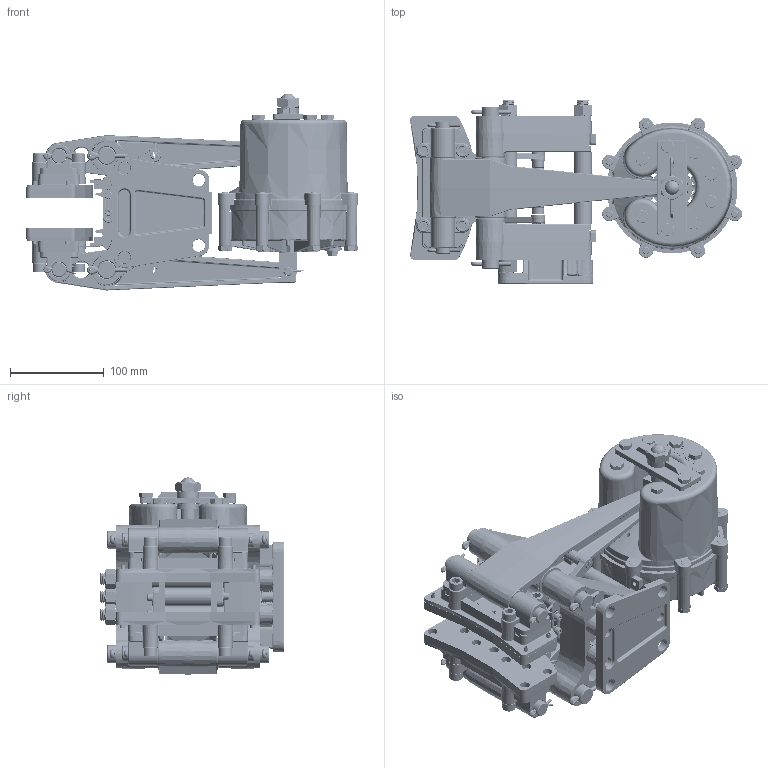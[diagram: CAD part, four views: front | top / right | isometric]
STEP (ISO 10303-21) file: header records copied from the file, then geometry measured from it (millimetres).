
FILE_DESCRIPTION (( 'STEP AP203' ), '1' );
FILE_NAME ('5020-SA-LH_revB.STEP', '2026-02-18T23:11:48', ( '' ), ( '' ), 'SwSTEP 2.0', 'SolidWorks 2023', '' );
FILE_SCHEMA (( 'CONFIG_CONTROL_DESIGN' ));
Length unit declared in the file: inch
Products named in the file (1): 5020-SA-LH_revB
Bounding box: 354.2 x 195.9 x 210.29 mm (x, y, z)
Surface area: 574702.5 mm2 (no closed solid volume)
Topology: 0 solids, 155 shells, 3652 faces, 11288 edges, 7346 vertices
Faces by surface type: cylinder 984, plane 968, cone 685, bspline 508, torus 471, sphere 36
Entity records: 159750 total; most frequent: CARTESIAN_POINT 67190, DIRECTION 18937, ORIENTED_EDGE 18185, EDGE_CURVE 11210, AXIS2_PLACEMENT_3D 7533, VERTEX_POINT 7346, CIRCLE 4388, EDGE_LOOP 3978
